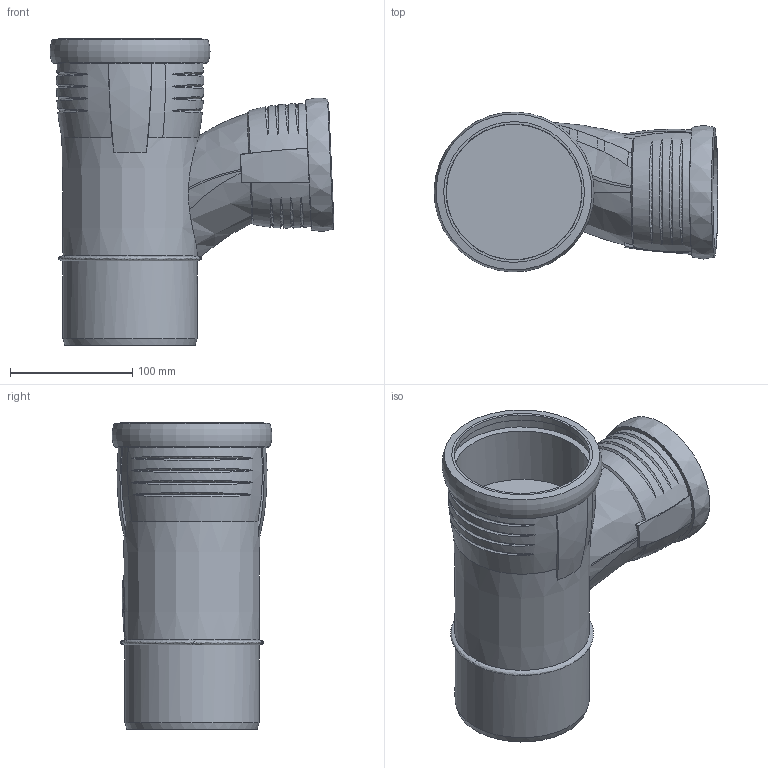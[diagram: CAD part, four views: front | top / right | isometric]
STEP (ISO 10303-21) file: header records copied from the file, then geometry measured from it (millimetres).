
FILE_DESCRIPTION(/* description */ (''),/* implementation_level */ '2;1');
FILE_NAME(/* name */ 'C:\Planerdaten\Export PLA\393.541.14.1\stp\393541.stp',/* time_stamp */ '2022-09-16T14:47:08+02:00',/* author */ ('JANAN'),/* organization */ (''),/* preprocessor_version */ 'ST-DEVELOPER v18.1',/* originating_system */ 'Autodesk Inventor 2021',/* authorisation */ '');
FILE_SCHEMA (('AUTOMOTIVE_DESIGN { 1 0 10303 214 3 1 1 }'));
Length unit declared in the file: millimetre
Products named in the file (1): tmpD968.tmp
Bounding box: 232.39 x 130.96 x 251 mm (x, y, z)
Volume: 1858367.7 mm3; surface area: 231005 mm2
Topology: 2 solids, 2 shells, 98 faces, 249 edges, 173 vertices
Faces by surface type: bspline 64, cone 16, plane 9, cylinder 8, torus 1
Full cylindrical faces by diameter (mm): 90.9 x1, 91.2 x1, 100.2 x1, 101.2 x1, 110.2 x1, 111 x1, 111.3 x1, 121.5 x1
Entity records: 16205 total; most frequent: CARTESIAN_POINT 14049, ORIENTED_EDGE 506, DIRECTION 274, EDGE_CURVE 253, VERTEX_POINT 177, B_SPLINE_CURVE_WITH_KNOTS 135, AXIS2_PLACEMENT_3D 121, EDGE_LOOP 118
